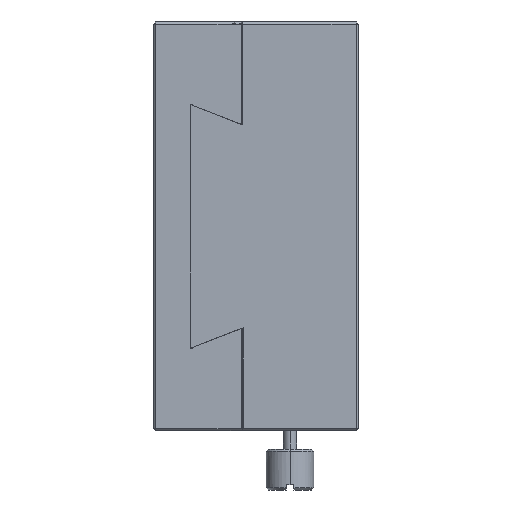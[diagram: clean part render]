
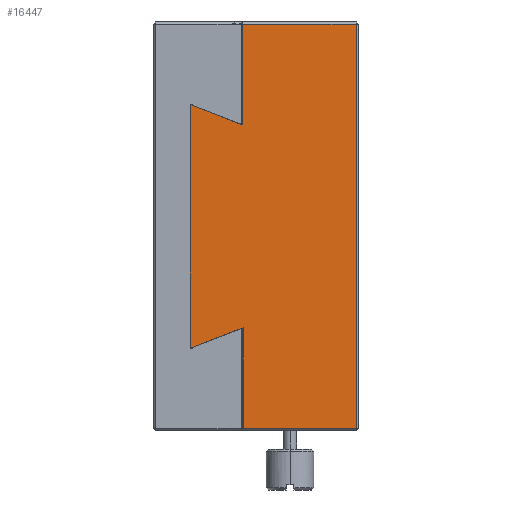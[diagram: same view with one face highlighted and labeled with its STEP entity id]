
A CAD part, left-side view. The second image highlights one B-rep face of the part: STEP entity #16447.
In plain terms, the highlighted planar face has unit normal (-1, 0, 0).
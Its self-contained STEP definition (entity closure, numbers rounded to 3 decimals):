
#18 = CARTESIAN_POINT ( 'NONE',  ( -30., 24.676, -17.887 ) ) ;
#456 = VERTEX_POINT ( 'NONE', #2240 ) ;
#746 = CARTESIAN_POINT ( 'NONE',  ( -30., 24.676, 0. ) ) ;
#1415 = AXIS2_PLACEMENT_3D ( 'NONE', #8127, #2002, #11969 ) ;
#1455 = CARTESIAN_POINT ( 'NONE',  ( -30., 16.982, 14.912 ) ) ;
#1659 = VECTOR ( 'NONE', #22194, 1000. ) ;
#2002 = DIRECTION ( 'NONE',  ( 1., 0., 0. ) ) ;
#2240 = CARTESIAN_POINT ( 'NONE',  ( -30., 24.676, 17.887 ) ) ;
#2770 = EDGE_CURVE ( 'NONE', #14482, #24402, #6479, .T. ) ;
#3102 = ORIENTED_EDGE ( 'NONE', *, *, #14321, .T. ) ;
#3443 = EDGE_CURVE ( 'NONE', #24402, #456, #12899, .T. ) ;
#4228 = CARTESIAN_POINT ( 'NONE',  ( -30., 16.982, 14.912 ) ) ;
#4551 = DIRECTION ( 'NONE',  ( 0., 0., 1. ) ) ;
#5351 = LINE ( 'NONE', #7808, #20292 ) ;
#5434 = CARTESIAN_POINT ( 'NONE',  ( -30., 16.982, -30. ) ) ;
#6011 = CARTESIAN_POINT ( 'NONE',  ( -30., 22.058, -16.935 ) ) ;
#6479 = B_SPLINE_CURVE_WITH_KNOTS ( 'NONE', 3,
 ( #14460, #24648, #12433, #6011, #25040, #18 ),
 .UNSPECIFIED., .F., .F.,
 ( 4, 2, 4 ),
 ( 0.039, 0.043, 0.047 ),
 .UNSPECIFIED. ) ;
#6920 = CARTESIAN_POINT ( 'NONE',  ( -30., 0.3, 29.7 ) ) ;
#7089 = LINE ( 'NONE', #5434, #1659 ) ;
#7808 = CARTESIAN_POINT ( 'NONE',  ( -30., 0., -29.7 ) ) ;
#7896 = CARTESIAN_POINT ( 'NONE',  ( -30., 0.3, -29.7 ) ) ;
#8127 = CARTESIAN_POINT ( 'NONE',  ( -30., 28., -30. ) ) ;
#8188 = EDGE_CURVE ( 'NONE', #26597, #12724, #7089, .T. ) ;
#8896 = LINE ( 'NONE', #25493, #26869 ) ;
#9061 = B_SPLINE_CURVE_WITH_KNOTS ( 'NONE', 3,
 ( #1455, #14008, #22277, #9912, #17827, #15614 ),
 .UNSPECIFIED., .F., .F.,
 ( 4, 2, 4 ),
 ( 0.039, 0.043, 0.047 ),
 .UNSPECIFIED. ) ;
#9094 = EDGE_CURVE ( 'NONE', #14482, #26715, #22732, .T. ) ;
#9183 = ORIENTED_EDGE ( 'NONE', *, *, #9094, .T. ) ;
#9912 = CARTESIAN_POINT ( 'NONE',  ( -30., 22.088, 16.946 ) ) ;
#10219 = VECTOR ( 'NONE', #4551, 1000. ) ;
#10773 = EDGE_CURVE ( 'NONE', #14281, #26597, #8896, .T. ) ;
#11041 = CARTESIAN_POINT ( 'NONE',  ( -30., 0.3, 30. ) ) ;
#11175 = VECTOR ( 'NONE', #12414, 1000. ) ;
#11488 = ORIENTED_EDGE ( 'NONE', *, *, #10773, .T. ) ;
#11899 = CARTESIAN_POINT ( 'NONE',  ( -30., 16.982, 29.7 ) ) ;
#11969 = DIRECTION ( 'NONE',  ( 0., 0., -1. ) ) ;
#12306 = LINE ( 'NONE', #11041, #16992 ) ;
#12414 = DIRECTION ( 'NONE',  ( 0., 0., -1. ) ) ;
#12433 = CARTESIAN_POINT ( 'NONE',  ( -30., 19.465, -15.928 ) ) ;
#12724 = VERTEX_POINT ( 'NONE', #4228 ) ;
#12899 = LINE ( 'NONE', #746, #10219 ) ;
#14008 = CARTESIAN_POINT ( 'NONE',  ( -30., 18.25, 15.438 ) ) ;
#14281 = VERTEX_POINT ( 'NONE', #6920 ) ;
#14321 = EDGE_CURVE ( 'NONE', #12724, #456, #9061, .T. ) ;
#14460 = CARTESIAN_POINT ( 'NONE',  ( -30., 16.894, -14.876 ) ) ;
#14482 = VERTEX_POINT ( 'NONE', #20522 ) ;
#14533 = ORIENTED_EDGE ( 'NONE', *, *, #2770, .F. ) ;
#15614 = CARTESIAN_POINT ( 'NONE',  ( -30., 24.676, 17.887 ) ) ;
#15692 = CARTESIAN_POINT ( 'NONE',  ( -30., 16.894, -30. ) ) ;
#16447 = ADVANCED_FACE ( 'NONE', ( #24457 ), #24593, .F. ) ;
#16557 = EDGE_LOOP ( 'NONE', ( #9183, #26463, #22720, #11488, #19786, #3102, #19345, #14533 ) ) ;
#16992 = VECTOR ( 'NONE', #25054, 1000. ) ;
#17202 = DIRECTION ( 'NONE',  ( 0., 1., 0. ) ) ;
#17794 = DIRECTION ( 'NONE',  ( 0., -1., 0. ) ) ;
#17827 = CARTESIAN_POINT ( 'NONE',  ( -30., 23.379, 17.427 ) ) ;
#18025 = CARTESIAN_POINT ( 'NONE',  ( -30., 16.894, -29.7 ) ) ;
#19345 = ORIENTED_EDGE ( 'NONE', *, *, #3443, .F. ) ;
#19786 = ORIENTED_EDGE ( 'NONE', *, *, #8188, .T. ) ;
#19941 = CARTESIAN_POINT ( 'NONE',  ( -30., 24.676, -17.887 ) ) ;
#20292 = VECTOR ( 'NONE', #17794, 1000. ) ;
#20522 = CARTESIAN_POINT ( 'NONE',  ( -30., 16.894, -14.876 ) ) ;
#21431 = VERTEX_POINT ( 'NONE', #7896 ) ;
#22194 = DIRECTION ( 'NONE',  ( 0., 0., -1. ) ) ;
#22277 = CARTESIAN_POINT ( 'NONE',  ( -30., 19.524, 15.952 ) ) ;
#22720 = ORIENTED_EDGE ( 'NONE', *, *, #25853, .T. ) ;
#22732 = LINE ( 'NONE', #15692, #11175 ) ;
#23072 = EDGE_CURVE ( 'NONE', #26715, #21431, #5351, .T. ) ;
#24402 = VERTEX_POINT ( 'NONE', #19941 ) ;
#24457 = FACE_OUTER_BOUND ( 'NONE', #16557, .T. ) ;
#24593 = PLANE ( 'NONE',  #1415 ) ;
#24648 = CARTESIAN_POINT ( 'NONE',  ( -30., 18.177, -15.409 ) ) ;
#25040 = CARTESIAN_POINT ( 'NONE',  ( -30., 23.364, -17.422 ) ) ;
#25054 = DIRECTION ( 'NONE',  ( 0., 0., 1. ) ) ;
#25493 = CARTESIAN_POINT ( 'NONE',  ( -30., 28., 29.7 ) ) ;
#25853 = EDGE_CURVE ( 'NONE', #21431, #14281, #12306, .T. ) ;
#26463 = ORIENTED_EDGE ( 'NONE', *, *, #23072, .T. ) ;
#26597 = VERTEX_POINT ( 'NONE', #11899 ) ;
#26715 = VERTEX_POINT ( 'NONE', #18025 ) ;
#26869 = VECTOR ( 'NONE', #17202, 1000. ) ;
